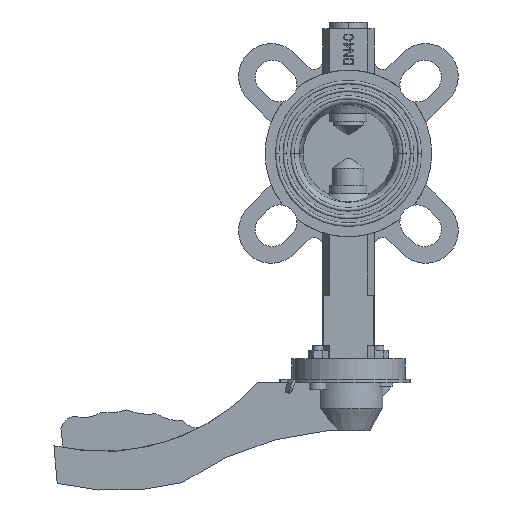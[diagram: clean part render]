
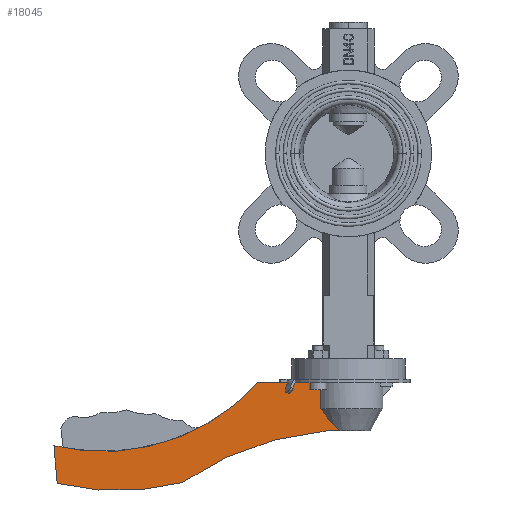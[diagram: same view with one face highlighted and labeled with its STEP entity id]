
A CAD part, front view. The second image highlights one B-rep face of the part: STEP entity #18045.
In plain terms, the highlighted planar face has unit normal (0, -1, 0) as drawn and (0, 0, 1) by its records, which use the part's own axes.
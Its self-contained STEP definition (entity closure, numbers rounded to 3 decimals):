
#17205=DIRECTION('',(1.,0.,0.));
#17206=VECTOR('',#17205,37.);
#17207=CARTESIAN_POINT('',(16.,0.,12.));
#17208=LINE('',#17207,#17206);
#17273=DIRECTION('',(0.,1.,0.));
#17274=VECTOR('',#17273,15.);
#17275=CARTESIAN_POINT('',(16.,0.,12.));
#17276=LINE('',#17275,#17274);
#17428=DIRECTION('',(-1.,0.,0.));
#17429=VECTOR('',#17428,8.);
#17430=CARTESIAN_POINT('',(13.,28.,12.));
#17431=LINE('',#17430,#17429);
#17432=CARTESIAN_POINT('',(-2.144,202.343,12.));
#17433=DIRECTION('',(0.,0.,-1.));
#17434=DIRECTION('',(0.567,-0.824,0.));
#17435=AXIS2_PLACEMENT_3D('',#17432,#17433,#17434);
#17437=CARTESIAN_POINT('',(133.983,-86.2,12.));
#17438=DIRECTION('',(0.,0.,1.));
#17439=DIRECTION('',(0.238,0.971,0.));
#17440=AXIS2_PLACEMENT_3D('',#17437,#17438,#17439);
#17442=DIRECTION('',(-0.087,0.996,0.));
#17443=VECTOR('',#17442,22.);
#17444=CARTESIAN_POINT('',(171.371,36.6,12.));
#17445=LINE('',#17444,#17443);
#17446=CARTESIAN_POINT('',(142.889,-81.,12.));
#17447=DIRECTION('',(0.,0.,-1.));
#17448=DIRECTION('',(-0.743,0.669,0.));
#17449=AXIS2_PLACEMENT_3D('',#17446,#17447,#17448);
#17471=CARTESIAN_POINT('',(5.,28.,12.));
#17472=CARTESIAN_POINT('',(5.552,27.605,12.));
#17473=CARTESIAN_POINT('',(6.667,26.698,12.));
#17474=CARTESIAN_POINT('',(8.382,25.002,12.));
#17475=CARTESIAN_POINT('',(10.153,22.988,12.));
#17476=CARTESIAN_POINT('',(12.,20.659,12.));
#17477=CARTESIAN_POINT('',(13.936,18.017,12.));
#17478=CARTESIAN_POINT('',(15.3,16.04,12.));
#17479=CARTESIAN_POINT('',(16.,15.,12.));
#17607=CARTESIAN_POINT('',(53.,0.,12.));
#17608=CARTESIAN_POINT('',(171.371,36.6,12.));
#17609=VERTEX_POINT('',#17607);
#17610=VERTEX_POINT('',#17608);
#17611=CARTESIAN_POINT('',(169.454,58.516,12.));
#17612=VERTEX_POINT('',#17611);
#17613=CARTESIAN_POINT('',(97.,58.137,12.));
#17614=VERTEX_POINT('',#17613);
#17615=CARTESIAN_POINT('',(13.,28.,12.));
#17616=VERTEX_POINT('',#17615);
#17621=CARTESIAN_POINT('',(16.,0.,12.));
#17622=CARTESIAN_POINT('',(16.,15.,12.));
#17623=VERTEX_POINT('',#17621);
#17624=VERTEX_POINT('',#17622);
#17625=VERTEX_POINT('',#17471);
#18025=CARTESIAN_POINT('',(0.,0.,12.));
#18026=DIRECTION('',(0.,0.,1.));
#18027=DIRECTION('',(1.,0.,0.));
#18028=AXIS2_PLACEMENT_3D('',#18025,#18026,#18027);
#18029=PLANE('',#18028);
#18030=ORIENTED_EDGE('',*,*,#17846,.T.);
#18032=ORIENTED_EDGE('',*,*,#18031,.F.);
#18034=ORIENTED_EDGE('',*,*,#18033,.F.);
#18036=ORIENTED_EDGE('',*,*,#18035,.F.);
#18038=ORIENTED_EDGE('',*,*,#18037,.F.);
#18040=ORIENTED_EDGE('',*,*,#18039,.F.);
#18041=ORIENTED_EDGE('',*,*,#18008,.F.);
#18042=ORIENTED_EDGE('',*,*,#17724,.F.);
#18043=EDGE_LOOP('',(#18030,#18032,#18034,#18036,#18038,#18040,#18041,#18042));
#18044=FACE_OUTER_BOUND('',#18043,.F.);
#18045=ADVANCED_FACE('',(#18044),#18029,.T.);
#17436=CIRCLE('',#17435,175.);
#17441=CIRCLE('',#17440,149.);
#17450=CIRCLE('',#17449,121.);
#17480=B_SPLINE_CURVE_WITH_KNOTS('',3,(#17471,#17472,#17473,#17474,#17475,
#17476,#17477,#17478,#17479),.UNSPECIFIED.,.F.,.F.,(4,1,1,1,1,1,4),(0.,
0.167,0.333,0.5,0.667,0.833,
1.),.UNSPECIFIED.);
#17724=EDGE_CURVE('',#17623,#17609,#17208,.T.);
#17846=EDGE_CURVE('',#17623,#17624,#17276,.T.);
#18008=EDGE_CURVE('',#17609,#17610,#17450,.T.);
#18031=EDGE_CURVE('',#17625,#17624,#17480,.T.);
#18033=EDGE_CURVE('',#17616,#17625,#17431,.T.);
#18035=EDGE_CURVE('',#17614,#17616,#17436,.T.);
#18037=EDGE_CURVE('',#17612,#17614,#17441,.T.);
#18039=EDGE_CURVE('',#17610,#17612,#17445,.T.);
